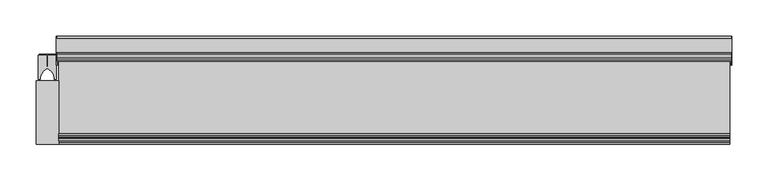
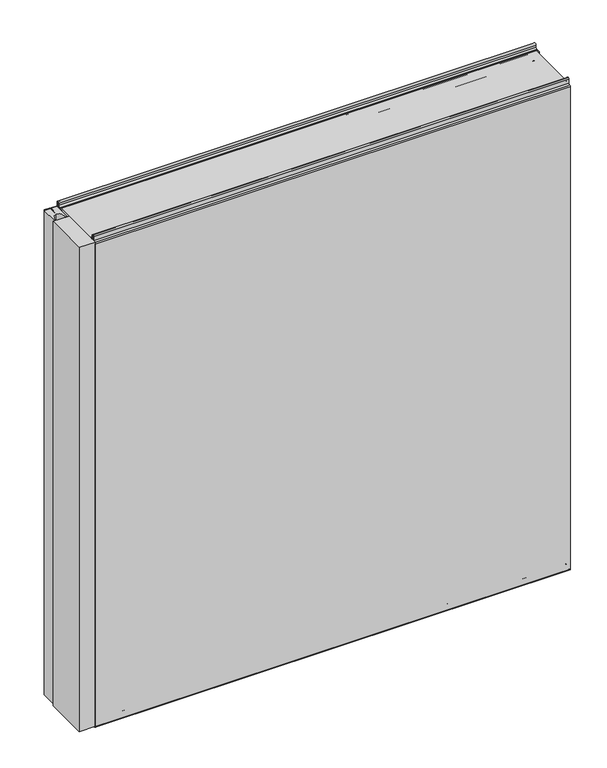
"""IFC4 building model written with IfcOpenShell, lengths in millimetres: plate geometry, Fronttop : Fronttop 150/1000."""

from ifc_helpers import new_model, si_unit, point, frame, frame_2d, origin, origin_with_axes, place, context, project, spatial, polyline, circle_curve, trimmed, segment, composite_curve, outline, extrude, source, transform, mapped, element, save
from ifc_brep_helpers import plane_surface, cylinder_surface, revolved_surface, advanced_brep


def plate_d942872d(model_context):
    return source(origin(), model_context, "Body", "SolidModel", [
        advanced_brep(
        [(-466.5, 124.0, 1008.0), (-466.5, 121.0, 1008.0), (-466.5, 121.0, 1004.0), (-466.5, 117.0, 1000.0), (-466.5, 115.0, 1000.0), (-466.5, 115.0, 1001.0), (-466.5, 117.0, 1001.0), (-466.5, 120.0, 1004.0), (-466.5, 120.0, 1008.0), (-466.5, 125.0, 1008.0), (-466.5, 125.0, 1000.0), (-466.5, 124.0, 1000.0), (466.5, 125.0, 1008.0), (466.5, 120.0, 1008.0), (466.5, 120.0, 1004.0), (466.5, 117.0, 1001.0), (466.5, 115.0, 1001.0), (466.5, 115.0, 1000.0), (466.5, 117.0, 1000.0), (466.5, 121.0, 1004.0), (466.5, 121.0, 1008.0), (466.5, 124.0, 1008.0), (466.5, 124.0, 1000.0), (466.5, 125.0, 1000.0), (-466.5, 117.0, 2.0), (466.5, 117.0, 2.0), (466.5, 115.0, 2.0), (-466.5, 115.0, 2.0), (-466.5, 119.0, 4.0), (466.5, 119.0, 4.0), (-466.5, 119.0, 8.0), (466.5, 119.0, 8.0), (-466.5, 126.0, 8.0), (466.5, 126.0, 8.0), (-466.5, 126.0, 0.0), (466.5, 126.0, 0.0), (-466.5, 129.0, -3.0), (466.5, 129.0, -3.0), (-466.5, 125.0, -3.0), (-467.5, 125.0, -3.0), (-467.5, 147.0, -3.0), (-466.5, 147.0, -3.0), (466.5, 147.0, -3.0), (467.5, 147.0, -3.0), (467.5, 125.0, -3.0), (466.5, 125.0, -3.0), (-466.5, 150.0, 0.0), (466.5, 150.0, 0.0), (-467.5, 150.0, 0.0), (-467.5, 150.0, 969.0), (-466.5, 150.0, 969.0), (466.5, 150.0, 969.0), (467.5, 150.0, 969.0), (467.5, 150.0, 0.0), (-466.5, 147.0, 972.0), (466.5, 147.0, 972.0), (-467.5, 147.0, 972.0), (-467.5, 128.0, 972.0), (-466.5, 128.0, 972.0), (466.5, 128.0, 972.0), (467.5, 128.0, 972.0), (467.5, 147.0, 972.0), (-466.5, 125.0, 975.0), (466.5, 125.0, 975.0), (-467.5, 125.0, 975.0), (-467.5, 125.0, 1000.0), (467.5, 125.0, 1000.0), (467.5, 125.0, 975.0), (-466.5, 124.0, 975.0), (466.5, 124.0, 975.0), (-466.5, 128.0, 971.0), (466.5, 128.0, 971.0), (-466.5, 147.0, 971.0), (466.5, 147.0, 971.0), (-466.5, 149.0, 969.0), (466.5, 149.0, 969.0), (-466.5, 149.0, 0.0), (466.5, 149.0, 0.0), (-466.5, 147.0, -2.0), (466.5, 147.0, -2.0), (-466.5, 129.0, -2.0), (466.5, 129.0, -2.0), (-466.5, 127.0, 0.0), (466.5, 127.0, 0.0), (-466.5, 127.0, 8.0), (466.5, 127.0, 8.0), (-466.5, 118.0, 8.0), (466.5, 118.0, 8.0), (-466.5, 118.0, 4.0), (466.5, 118.0, 4.0), (-466.5, 117.0, 3.0), (466.5, 117.0, 3.0), (-466.5, 115.0, 3.0), (466.5, 115.0, 3.0), (467.5, 110.0, 1000.0), (467.5, 110.0, 0.0), (467.5, 125.0, 0.0), (466.5, 125.0, 0.0), (466.5, 110.0, 0.0), (466.5, 110.0, 1000.0), (-467.5, 125.0, 0.0), (-467.5, 110.0, 0.0), (-467.5, 110.0, 1000.0), (-466.5, 110.0, 1000.0), (-466.5, 110.0, 0.0), (-466.5, 125.0, 0.0)],
        [
            (0, 1, circle_curve(frame((-466.5, 122.5, 1008.0), z_axis=(1.0, 0.0, 0.0), x_axis=(0.0, -1.0, 0.0)), 1.5)),
            (1, 2),
            (2, 3, circle_curve(frame((-466.5, 117.0, 1004.0), z_axis=(-1.0, 0.0, 0.0), x_axis=(0.0, -1.0, 0.0)), 4.0)),
            (3, 4),
            (4, 5),
            (5, 6),
            (6, 7, circle_curve(frame((-466.5, 117.0, 1004.0), z_axis=(1.0, 0.0, 0.0), x_axis=(0.0, -1.0, 0.0)), 3.0)),
            (7, 8),
            (8, 9, circle_curve(frame((-466.5, 122.5, 1008.0), z_axis=(-1.0, 0.0, 0.0), x_axis=(0.0, -1.0, 0.0)), 2.5)),
            (9, 10),
            (10, 11),
            (11, 0),
            (12, 13, circle_curve(frame((466.5, 122.5, 1008.0), z_axis=(1.0, 0.0, 0.0), x_axis=(0.0, -1.0, 0.0)), 2.5)),
            (13, 14),
            (14, 15, circle_curve(frame((466.5, 117.0, 1004.0), z_axis=(-1.0, 0.0, 0.0), x_axis=(0.0, -1.0, 0.0)), 3.0)),
            (15, 16),
            (16, 17),
            (17, 18),
            (18, 19, circle_curve(frame((466.5, 117.0, 1004.0), z_axis=(1.0, 0.0, 0.0), x_axis=(0.0, -1.0, 0.0)), 4.0)),
            (19, 20),
            (20, 21, circle_curve(frame((466.5, 122.5, 1008.0), z_axis=(-1.0, 0.0, 0.0), x_axis=(0.0, -1.0, 0.0)), 1.5)),
            (21, 22),
            (22, 23),
            (23, 12),
            (24, 25),
            (25, 26),
            (26, 27),
            (27, 24),
            (24, 28, circle_curve(frame((-466.5, 117.0, 4.0), z_axis=(1.0, 0.0, 0.0), x_axis=(0.0, -1.0, 0.0)), 2.0)),
            (28, 29),
            (29, 25, circle_curve(frame((466.5, 117.0, 4.0), z_axis=(-1.0, 0.0, 0.0), x_axis=(0.0, -1.0, 0.0)), 2.0)),
            (28, 30),
            (30, 31),
            (31, 29),
            (30, 32, circle_curve(frame((-466.5, 122.5, 8.0), z_axis=(-1.0, 0.0, 0.0), x_axis=(0.0, -1.0, 0.0)), 3.5)),
            (32, 33),
            (33, 31, circle_curve(frame((466.5, 122.5, 8.0), z_axis=(1.0, 0.0, 0.0), x_axis=(0.0, -1.0, 0.0)), 3.5)),
            (32, 34),
            (34, 35),
            (35, 33),
            (34, 36, circle_curve(frame((-466.5, 129.0, 0.0), z_axis=(1.0, 0.0, 0.0), x_axis=(0.0, -1.0, 0.0)), 3.0)),
            (36, 37),
            (37, 35, circle_curve(frame((466.5, 129.0, 0.0), z_axis=(-1.0, 0.0, 0.0), x_axis=(0.0, -1.0, 0.0)), 3.0)),
            (36, 38),
            (38, 39),
            (39, 40),
            (40, 41),
            (41, 42),
            (42, 43),
            (43, 44),
            (44, 45),
            (45, 37),
            (41, 46, circle_curve(frame((-466.5, 147.0, 0.0), z_axis=(1.0, 0.0, 0.0), x_axis=(0.0, -1.0, 0.0)), 3.0)),
            (46, 47),
            (47, 42, circle_curve(frame((466.5, 147.0, 0.0), z_axis=(-1.0, 0.0, 0.0), x_axis=(0.0, -1.0, 0.0)), 3.0)),
            (46, 48),
            (48, 49),
            (49, 50),
            (50, 51),
            (51, 52),
            (52, 53),
            (53, 47),
            (50, 54, circle_curve(frame((-466.5, 147.0, 969.0), z_axis=(1.0, 0.0, 0.0), x_axis=(0.0, -1.0, 0.0)), 3.0)),
            (54, 55),
            (55, 51, circle_curve(frame((466.5, 147.0, 969.0), z_axis=(-1.0, 0.0, 0.0), x_axis=(0.0, -1.0, 0.0)), 3.0)),
            (54, 56),
            (56, 57),
            (57, 58),
            (58, 59),
            (59, 60),
            (60, 61),
            (61, 55),
            (58, 62, circle_curve(frame((-466.5, 128.0, 975.0), z_axis=(-1.0, 0.0, 0.0), x_axis=(0.0, -1.0, 0.0)), 3.0)),
            (62, 63),
            (63, 59, circle_curve(frame((466.5, 128.0, 975.0), z_axis=(1.0, 0.0, 0.0), x_axis=(0.0, -1.0, 0.0)), 3.0)),
            (62, 64),
            (64, 65),
            (65, 10),
            (9, 12),
            (23, 66),
            (66, 67),
            (67, 63),
            (8, 13),
            (7, 14),
            (6, 15),
            (5, 16),
            (4, 17),
            (4, 3),
            (3, 18),
            (18, 17),
            (2, 19),
            (1, 20),
            (0, 21),
            (11, 68),
            (68, 69),
            (69, 22),
            (68, 70, circle_curve(frame((-466.5, 128.0, 975.0), z_axis=(1.0, 0.0, 0.0), x_axis=(0.0, -1.0, 0.0)), 4.0)),
            (70, 71),
            (71, 69, circle_curve(frame((466.5, 128.0, 975.0), z_axis=(-1.0, 0.0, 0.0), x_axis=(0.0, -1.0, 0.0)), 4.0)),
            (70, 72),
            (72, 73),
            (73, 71),
            (72, 74, circle_curve(frame((-466.5, 147.0, 969.0), z_axis=(-1.0, 0.0, 0.0), x_axis=(0.0, -1.0, 0.0)), 2.0)),
            (74, 75),
            (75, 73, circle_curve(frame((466.5, 147.0, 969.0), z_axis=(1.0, 0.0, 0.0), x_axis=(0.0, -1.0, 0.0)), 2.0)),
            (74, 76),
            (76, 77),
            (77, 75),
            (76, 78, circle_curve(frame((-466.5, 147.0, 0.0), z_axis=(-1.0, 0.0, 0.0), x_axis=(0.0, -1.0, 0.0)), 2.0)),
            (78, 79),
            (79, 77, circle_curve(frame((466.5, 147.0, 0.0), z_axis=(1.0, 0.0, 0.0), x_axis=(0.0, -1.0, 0.0)), 2.0)),
            (78, 80),
            (80, 81),
            (81, 79),
            (80, 82, circle_curve(frame((-466.5, 129.0, 0.0), z_axis=(-1.0, 0.0, 0.0), x_axis=(0.0, -1.0, 0.0)), 2.0)),
            (82, 83),
            (83, 81, circle_curve(frame((466.5, 129.0, 0.0), z_axis=(1.0, 0.0, 0.0), x_axis=(0.0, -1.0, 0.0)), 2.0)),
            (82, 84),
            (84, 85),
            (85, 83),
            (84, 86, circle_curve(frame((-466.5, 122.5, 8.0), z_axis=(1.0, 0.0, 0.0), x_axis=(0.0, -1.0, 0.0)), 4.5)),
            (86, 87),
            (87, 85, circle_curve(frame((466.5, 122.5, 8.0), z_axis=(-1.0, 0.0, 0.0), x_axis=(0.0, -1.0, 0.0)), 4.5)),
            (86, 88),
            (88, 89),
            (89, 87),
            (88, 90, circle_curve(frame((-466.5, 117.0, 4.0), z_axis=(-1.0, 0.0, 0.0), x_axis=(0.0, -1.0, 0.0)), 1.0)),
            (90, 91),
            (91, 89, circle_curve(frame((466.5, 117.0, 4.0), z_axis=(1.0, 0.0, 0.0), x_axis=(0.0, -1.0, 0.0)), 1.0)),
            (90, 92),
            (92, 93),
            (93, 91),
            (26, 93),
            (92, 27),
            (66, 94),
            (94, 95),
            (95, 96),
            (96, 44),
            (43, 53, circle_curve(frame((467.5, 147.0, 0.0), z_axis=(1.0, 0.0, 0.0), x_axis=(0.0, 1.0, 0.0)), 3.0)),
            (52, 61, circle_curve(frame((467.5, 147.0, 969.0), z_axis=(1.0, 0.0, 0.0), x_axis=(0.0, 1.0, 0.0)), 3.0)),
            (60, 67, circle_curve(frame((467.5, 128.0, 975.0), z_axis=(-1.0, 0.0, 0.0), x_axis=(0.0, 1.0, 0.0)), 3.0)),
            (45, 97),
            (97, 98),
            (98, 99),
            (99, 17),
            (18, 22),
            (99, 94),
            (98, 95),
            (97, 96),
            (64, 57, circle_curve(frame((-467.5, 128.0, 975.0), z_axis=(1.0, 0.0, 0.0), x_axis=(0.0, 1.0, 0.0)), 3.0)),
            (56, 49, circle_curve(frame((-467.5, 147.0, 969.0), z_axis=(-1.0, 0.0, 0.0), x_axis=(0.0, 1.0, 0.0)), 3.0)),
            (48, 40, circle_curve(frame((-467.5, 147.0, 0.0), z_axis=(-1.0, 0.0, 0.0), x_axis=(0.0, 1.0, 0.0)), 3.0)),
            (39, 100),
            (100, 101),
            (101, 102),
            (102, 65),
            (103, 104),
            (104, 105),
            (105, 38),
            (11, 3),
            (4, 103),
            (102, 103),
            (101, 104),
            (100, 105),
        ],
        [
            plane_surface(frame((-466.5, 0.0, 0.0), z_axis=(-1.0, 0.0, 0.0), x_axis=(0.0, 0.0, 1.0))),
            plane_surface(frame((466.5, 0.0, 0.0), z_axis=(1.0, 0.0, 0.0), x_axis=(0.0, 0.0, 1.0))),
            plane_surface(frame((-466.5, 117.0, 2.0), z_axis=(0.0, 0.0, -1.0), x_axis=(1.0, 0.0, 0.0))),
            cylinder_surface(frame((-466.5, 117.0, 4.0), z_axis=(-1.0, 0.0, 0.0), x_axis=(0.0, -1.0, 0.0)), 2.0),
            plane_surface(frame((-466.5, 119.0, 8.0), z_axis=(0.0, 1.0, 0.0), x_axis=(1.0, 0.0, 0.0))),
            revolved_surface(polyline([(466.5, 119.0, 8.0), (-466.5, 119.0, 8.0)]), (-466.5, 122.5, 8.0), (1.0, 0.0, 0.0)),
            plane_surface(frame((-466.5, 126.0, 0.0), z_axis=(0.0, -1.0, 0.0), x_axis=(1.0, 0.0, 0.0))),
            cylinder_surface(frame((-466.5, 129.0, 0.0), z_axis=(-1.0, 0.0, 0.0), x_axis=(0.0, -1.0, 0.0)), 3.0),
            plane_surface(frame((-466.5, 147.0, -3.0), z_axis=(0.0, 0.0, -1.0), x_axis=(1.0, 0.0, 0.0))),
            cylinder_surface(frame((-466.5, 147.0, 0.0), z_axis=(-1.0, 0.0, 0.0), x_axis=(0.0, -1.0, 0.0)), 3.0),
            plane_surface(frame((-466.5, 150.0, 969.0), z_axis=(0.0, 1.0, 0.0), x_axis=(1.0, 0.0, 0.0))),
            cylinder_surface(frame((-466.5, 147.0, 969.0), z_axis=(-1.0, 0.0, 0.0), x_axis=(0.0, -1.0, 0.0)), 3.0),
            plane_surface(frame((-466.5, 128.0, 972.0), z_axis=(0.0, 0.0, 1.0), x_axis=(1.0, 0.0, 0.0))),
            revolved_surface(polyline([(466.5, 125.0, 975.0), (-466.5, 125.0, 975.0)]), (-466.5, 128.0, 975.0), (1.0, 0.0, 0.0)),
            plane_surface(frame((-466.5, 125.0, 1008.0), z_axis=(0.0, 1.0, 0.0), x_axis=(1.0, 0.0, 0.0))),
            cylinder_surface(frame((-466.5, 122.5, 1008.0), z_axis=(-1.0, 0.0, 0.0), x_axis=(0.0, -1.0, 0.0)), 2.5),
            plane_surface(frame((-466.5, 120.0, 1004.0), z_axis=(0.0, -1.0, 0.0), x_axis=(1.0, 0.0, 0.0))),
            revolved_surface(polyline([(466.5, 114.0, 1004.0), (-466.5, 114.0, 1004.0)]), (-466.5, 117.0, 1004.0), (1.0, 0.0, 0.0)),
            plane_surface(frame((-466.5, 115.0, 1001.0), z_axis=(0.0, 0.0, 1.0), x_axis=(1.0, 0.0, 0.0))),
            plane_surface(frame((-466.5, 115.0, 1000.0), z_axis=(0.0, -1.0, 0.0), x_axis=(1.0, 0.0, 0.0))),
            plane_surface(frame((-466.5, 117.0, 1000.0), z_axis=(0.0, 0.0, -1.0), x_axis=(1.0, 0.0, 0.0))),
            cylinder_surface(frame((-466.5, 117.0, 1004.0), z_axis=(-1.0, 0.0, 0.0), x_axis=(0.0, -1.0, 0.0)), 4.0),
            plane_surface(frame((-466.5, 121.0, 1008.0), z_axis=(0.0, 1.0, 0.0), x_axis=(1.0, 0.0, 0.0))),
            revolved_surface(polyline([(466.5, 121.0, 1008.0), (-466.5, 121.0, 1008.0)]), (-466.5, 122.5, 1008.0), (1.0, 0.0, 0.0)),
            plane_surface(frame((-466.5, 124.0, 975.0), z_axis=(0.0, -1.0, 0.0), x_axis=(1.0, 0.0, 0.0))),
            cylinder_surface(frame((-466.5, 128.0, 975.0), z_axis=(-1.0, 0.0, 0.0), x_axis=(0.0, -1.0, 0.0)), 4.0),
            plane_surface(frame((-466.5, 147.0, 971.0), z_axis=(0.0, 0.0, -1.0), x_axis=(1.0, 0.0, 0.0))),
            revolved_surface(polyline([(466.5, 145.0, 969.0), (-466.5, 145.0, 969.0)]), (-466.5, 147.0, 969.0), (1.0, 0.0, 0.0)),
            plane_surface(frame((-466.5, 149.0, 0.0), z_axis=(0.0, -1.0, 0.0), x_axis=(1.0, 0.0, 0.0))),
            revolved_surface(polyline([(466.5, 145.0, 0.0), (-466.5, 145.0, 0.0)]), (-466.5, 147.0, 0.0), (1.0, 0.0, 0.0)),
            plane_surface(frame((-466.5, 129.0, -2.0), z_axis=(0.0, 0.0, 1.0), x_axis=(1.0, 0.0, 0.0))),
            revolved_surface(polyline([(466.5, 127.0, 0.0), (-466.5, 127.0, 0.0)]), (-466.5, 129.0, 0.0), (1.0, 0.0, 0.0)),
            plane_surface(frame((-466.5, 127.0, 8.0), z_axis=(0.0, 1.0, 0.0), x_axis=(1.0, 0.0, 0.0))),
            cylinder_surface(frame((-466.5, 122.5, 8.0), z_axis=(-1.0, 0.0, 0.0), x_axis=(0.0, -1.0, 0.0)), 4.5),
            plane_surface(frame((-466.5, 118.0, 4.0), z_axis=(0.0, -1.0, 0.0), x_axis=(1.0, 0.0, 0.0))),
            revolved_surface(polyline([(466.5, 116.0, 4.0), (-466.5, 116.0, 4.0)]), (-466.5, 117.0, 4.0), (1.0, 0.0, 0.0)),
            plane_surface(frame((-466.5, 115.0, 3.0), z_axis=(0.0, 0.0, 1.0), x_axis=(1.0, 0.0, 0.0))),
            plane_surface(frame((-466.5, 115.0, 2.0), z_axis=(0.0, -1.0, 0.0), x_axis=(1.0, 0.0, 0.0))),
            plane_surface(frame((467.5, 125.0, 1000.0), z_axis=(1.0, 0.0, 0.0), x_axis=(0.0, -1.0, 0.0))),
            plane_surface(frame((466.5, 125.0, 1000.0), z_axis=(-1.0, 0.0, 0.0), x_axis=(0.0, 1.0, 0.0))),
            plane_surface(frame((467.5, 125.0, 1000.0), z_axis=(0.0, 0.0, 1.0), x_axis=(-1.0, 0.0, 0.0))),
            plane_surface(frame((467.5, 110.0, 1000.0), z_axis=(0.0, -1.0, 0.0), x_axis=(-1.0, 0.0, 0.0))),
            plane_surface(frame((467.5, 110.0, 0.0), z_axis=(0.0, 0.0, -1.0), x_axis=(-1.0, 0.0, 0.0))),
            cylinder_surface(frame((466.5, 147.0, 0.0), z_axis=(1.0, 0.0, 0.0), x_axis=(0.0, 1.0, 0.0)), 3.0),
            cylinder_surface(frame((466.5, 147.0, 969.0), z_axis=(1.0, 0.0, 0.0), x_axis=(0.0, 1.0, 0.0)), 3.0),
            revolved_surface(polyline([(466.5, 131.0, 975.0), (467.5, 131.0, 975.0)]), (466.5, 128.0, 975.0), (-1.0, 0.0, 0.0)),
            plane_surface(frame((-467.5, 125.0, 1000.0), z_axis=(-1.0, 0.0, 0.0), x_axis=(0.0, 1.0, 0.0))),
            plane_surface(frame((-466.5, 125.0, 1000.0), z_axis=(1.0, 0.0, 0.0), x_axis=(0.0, -1.0, 0.0))),
            plane_surface(frame((-466.5, 125.0, 1000.0), z_axis=(0.0, 0.0, 1.0), x_axis=(-1.0, 0.0, 0.0))),
            plane_surface(frame((-466.5, 110.0, 1000.0), z_axis=(0.0, -1.0, 0.0), x_axis=(-1.0, 0.0, 0.0))),
            plane_surface(frame((-466.5, 110.0, 0.0), z_axis=(0.0, 0.0, -1.0), x_axis=(-1.0, 0.0, 0.0))),
            cylinder_surface(frame((-467.5, 147.0, 0.0), z_axis=(1.0, 0.0, 0.0), x_axis=(0.0, 1.0, 0.0)), 3.0),
            cylinder_surface(frame((-467.5, 147.0, 969.0), z_axis=(1.0, 0.0, 0.0), x_axis=(0.0, 1.0, 0.0)), 3.0),
            revolved_surface(polyline([(-467.5, 131.0, 975.0), (-466.5, 131.0, 975.0)]), (-467.5, 128.0, 975.0), (-1.0, 0.0, 0.0)),
            plane_surface(frame((467.5, 125.0, 0.0), z_axis=(0.0, -1.0, 0.0), x_axis=(-1.0, 0.0, 0.0))),
            plane_surface(frame((-466.5, 125.0, 0.0), z_axis=(0.0, -1.0, 0.0), x_axis=(-1.0, 0.0, 0.0))),
        ],
        [
            (0, [[1, 2, 3, 4, 5, 6, 7, 8, 9, 10, 11, 12]]),
            (1, [[13, 14, 15, 16, 17, 18, 19, 20, 21, 22, 23, 24]]),
            (2, [[25, 26, 27, 28]]),
            (3, [[-25, 29, 30, 31]]),
            (4, [[-30, 32, 33, 34]]),
            (5, [[-33, 35, 36, 37]]),
            (6, [[-36, 38, 39, 40]]),
            (7, [[-39, 41, 42, 43]]),
            (8, [[-42, 44, 45, 46, 47, 48, 49, 50, 51, 52]]),
            (9, [[-48, 53, 54, 55]]),
            (10, [[-54, 56, 57, 58, 59, 60, 61, 62]]),
            (11, [[-59, 63, 64, 65]]),
            (12, [[-64, 66, 67, 68, 69, 70, 71, 72]]),
            (13, [[-69, 73, 74, 75]]),
            (14, [[-74, 76, 77, 78, -10, 79, -24, 80, 81, 82]]),
            (15, [[-9, 83, -13, -79]]),
            (16, [[-8, 84, -14, -83]]),
            (17, [[-7, 85, -15, -84]]),
            (18, [[-6, 86, -16, -85]]),
            (19, [[-5, 87, -17, -86]]),
            (20, [[-87, 88, 89, 90]]),
            (21, [[-3, 91, -19, -89]]),
            (22, [[-2, 92, -20, -91]]),
            (23, [[-1, 93, -21, -92]]),
            (24, [[-93, -12, 94, 95, 96, -22]]),
            (25, [[-95, 97, 98, 99]]),
            (26, [[-98, 100, 101, 102]]),
            (27, [[-101, 103, 104, 105]]),
            (28, [[-104, 106, 107, 108]]),
            (29, [[-107, 109, 110, 111]]),
            (30, [[-110, 112, 113, 114]]),
            (31, [[-113, 115, 116, 117]]),
            (32, [[-116, 118, 119, 120]]),
            (33, [[-119, 121, 122, 123]]),
            (34, [[-122, 124, 125, 126]]),
            (35, [[-125, 127, 128, 129]]),
            (36, [[-128, 130, 131, 132]]),
            (37, [[-27, 133, -131, 134]]),
            (38, [[135, 136, 137, 138, -50, 139, -61, 140, -71, 141, -81]]),
            (39, [[142, 143, 144, 145, -90, 146, -96, -99, -102, -105, -108, -111, -114, -117, -120, -123, -126, -129, -132, -133, -26, -31, -34, -37, -40, -43, -52]]),
            (40, [[-135, -80, -23, -146, -18, -145, 147]]),
            (41, [[-136, -147, -144, 148]]),
            (42, [[-137, -148, -143, 149]]),
            (43, [[-139, -49, -55, -62]]),
            (44, [[-140, -60, -65, -72]]),
            (45, [[-141, -70, -75, -82]]),
            (46, [[-77, 150, -67, 151, -57, 152, -46, 153, 154, 155, 156]]),
            (47, [[157, 158, 159, -44, -41, -38, -35, -32, -29, -28, -134, -130, -127, -124, -121, -118, -115, -112, -109, -106, -103, -100, -97, -94, 160, -88, 161]]),
            (48, [[-156, 162, -161, -4, -160, -11, -78]]),
            (49, [[-155, 163, -157, -162]]),
            (50, [[-154, 164, -158, -163]]),
            (51, [[-152, -56, -53, -47]]),
            (52, [[-151, -66, -63, -58]]),
            (53, [[-150, -76, -73, -68]]),
            (54, [[-138, -149, -142, -51]]),
            (55, [[-153, -45, -159, -164]]),
        ],
    ),
        extrude(outline(composite_curve([segment(polyline([(-492.5001545, 123.5), (-480.75, 123.5), (-480.75, 107.5), (-479.25, 107.5), (-479.25, 123.5), (-467.4998455, 123.5), (-467.4998455, 90.0), (-470.25, 90.0), (-470.25, 92.5)]), True, "CONTINUOUS"), segment(trimmed(circle_curve(frame_2d((-488.0338021, 89.3183984)), 18.0661619), [point((-470.25, 92.5))], [point((-480.0, 105.5))], True, "CARTESIAN"), True, "CONTINUOUS"), segment(trimmed(circle_curve(frame_2d((-471.9661979, 89.3183984)), 18.0661619), [point((-480.0, 105.5))], [point((-489.75, 92.5))], True, "CARTESIAN"), True, "CONTINUOUS"), segment(polyline([(-489.75, 92.5), (-489.75, 90.0), (-492.5001545, 90.0), (-492.5001545, 123.5)]), True, "CONTINUOUS")], self_intersect=False)), origin_with_axes(), (0.0, 0.0, 1.0), 1000.0),
        extrude(outline(polyline([(-464.5, 0.0), (-495.5, 0.0), (-495.5, 88.0), (-464.5, 88.0), (-464.5, 0.0)])), origin_with_axes(), (0.0, 0.0, 1.0), 1000.0),
        extrude(outline(polyline([(-491.5051154, 125.0), (-468.4948846, 125.0), (-468.4948846, 123.5), (-479.3497504, 123.5), (-479.3497504, 109.0759655), (-480.65, 109.0759655), (-480.65, 123.5), (-491.5051154, 123.5), (-491.5051154, 125.0)])), origin_with_axes(), (0.0, 0.0, 1.0), 1000.0),
        advanced_brep(
        [(-464.5, 13.0, 1001.0), (-464.5, 15.0, 1001.0), (-464.5, 15.0, 1000.0), (-464.5, 13.0, 1000.0), (-464.5, 9.0, 1004.0), (-464.5, 9.0, 1008.0), (-464.5, 6.0, 1008.0), (-464.5, 6.0, 999.5), (-464.5, 2.1134897, 996.0214069), (-464.5, 1.0, 995.0), (-464.5, 1.0, -0.5), (-464.5, 3.0, -0.5), (-464.5, 3.0, 8.0), (-464.5, 12.0, 8.0), (-464.5, 12.0, 4.0), (-464.5, 13.0, 3.0), (-464.5, 15.0, 3.0), (-464.5, 15.0, 2.0), (-464.5, 13.0, 2.0), (-464.5, 11.0, 4.0), (-464.5, 11.0, 8.0), (-464.5, 4.0, 8.0), (-464.5, 4.0, -0.5), (-464.5, 0.0, -0.5), (-464.5, 0.0, 995.0), (-464.5, 2.220863, 996.9877675), (-464.5, 5.0, 999.5), (-464.5, 5.0, 1008.0), (-464.5, 10.0, 1008.0), (-464.5, 10.0, 1004.0), (464.5, 13.0, 1001.0), (464.5, 10.0, 1004.0), (464.5, 10.0, 1008.0), (464.5, 5.0, 1008.0), (464.5, 5.0, 999.5), (464.5, 2.2239212, 997.0152907), (464.5, 0.0, 995.0), (464.5, 0.0, -0.5), (464.5, 4.0, -0.5), (464.5, 4.0, 8.0), (464.5, 11.0, 8.0), (464.5, 11.0, 4.0), (464.5, 13.0, 2.0), (464.5, 15.0, 2.0), (464.5, 15.0, 3.0), (464.5, 13.0, 3.0), (464.5, 12.0, 4.0), (464.5, 12.0, 8.0), (464.5, 3.0, 8.0), (464.5, 3.0, -0.5), (464.5, 1.0, -0.5), (464.5, 1.0, 995.0), (464.5, 2.1104315, 995.9938837), (464.5, 6.0, 999.5), (464.5, 6.0, 1008.0), (464.5, 9.0, 1008.0), (464.5, 9.0, 1004.0), (464.5, 13.0, 1000.0), (464.5, 15.0, 1000.0), (464.5, 15.0, 1001.0)],
        [
            (0, 1),
            (1, 2),
            (2, 3),
            (3, 4, circle_curve(frame((-464.5, 13.0, 1004.0), z_axis=(-1.0, 0.0, 0.0), x_axis=(0.0, -1.0, 0.0)), 4.0)),
            (4, 5),
            (5, 6, circle_curve(frame((-464.5, 7.5, 1008.0), z_axis=(1.0, 0.0, 0.0), x_axis=(0.0, -1.0, 0.0)), 1.5)),
            (6, 7),
            (7, 8, circle_curve(frame((-464.5, 2.5, 999.5), z_axis=(-1.0, 0.0, 0.0), x_axis=(0.0, -1.0, 0.0)), 3.5)),
            (8, 9, circle_curve(frame((-464.5, 2.0, 995.0), z_axis=(1.0, 0.0, 0.0), x_axis=(0.0, -1.0, 0.0)), 1.0)),
            (9, 10),
            (10, 11, circle_curve(frame((-464.5, 2.0, -0.5), z_axis=(1.0, 0.0, 0.0), x_axis=(0.0, -1.0, 0.0)), 1.0)),
            (11, 12),
            (12, 13, circle_curve(frame((-464.5, 7.5, 8.0), z_axis=(-1.0, 0.0, 0.0), x_axis=(0.0, -1.0, 0.0)), 4.5)),
            (13, 14),
            (14, 15, circle_curve(frame((-464.5, 13.0, 4.0), z_axis=(1.0, 0.0, 0.0), x_axis=(0.0, -1.0, 0.0)), 1.0)),
            (15, 16),
            (16, 17),
            (17, 18),
            (18, 19, circle_curve(frame((-464.5, 13.0, 4.0), z_axis=(-1.0, 0.0, 0.0), x_axis=(0.0, -1.0, 0.0)), 2.0)),
            (19, 20),
            (20, 21, circle_curve(frame((-464.5, 7.5, 8.0), z_axis=(1.0, 0.0, 0.0), x_axis=(0.0, -1.0, 0.0)), 3.5)),
            (21, 22),
            (22, 23, circle_curve(frame((-464.5, 2.0, -0.5), z_axis=(-1.0, 0.0, 0.0), x_axis=(0.0, -1.0, 0.0)), 2.0)),
            (23, 24),
            (24, 25, circle_curve(frame((-464.5, 2.0, 995.0), z_axis=(-1.0, 0.0, 0.0), x_axis=(0.0, -1.0, 0.0)), 2.0)),
            (25, 26, circle_curve(frame((-464.5, 2.5, 999.5), z_axis=(1.0, 0.0, 0.0), x_axis=(0.0, -1.0, 0.0)), 2.5)),
            (26, 27),
            (27, 28, circle_curve(frame((-464.5, 7.5, 1008.0), z_axis=(-1.0, 0.0, 0.0), x_axis=(0.0, -1.0, 0.0)), 2.5)),
            (28, 29),
            (29, 0, circle_curve(frame((-464.5, 13.0, 1004.0), z_axis=(1.0, 0.0, 0.0), x_axis=(0.0, -1.0, 0.0)), 3.0)),
            (30, 31, circle_curve(frame((464.5, 13.0, 1004.0), z_axis=(-1.0, 0.0, 0.0), x_axis=(0.0, -1.0, 0.0)), 3.0)),
            (31, 32),
            (32, 33, circle_curve(frame((464.5, 7.5, 1008.0), z_axis=(1.0, 0.0, 0.0), x_axis=(0.0, -1.0, 0.0)), 2.5)),
            (33, 34),
            (34, 35, circle_curve(frame((464.5, 2.5, 999.5), z_axis=(-1.0, 0.0, 0.0), x_axis=(0.0, -1.0, 0.0)), 2.5)),
            (35, 36, circle_curve(frame((464.5, 2.0, 995.0), z_axis=(1.0, 0.0, 0.0), x_axis=(0.0, -1.0, 0.0)), 2.0)),
            (36, 37),
            (37, 38, circle_curve(frame((464.5, 2.0, -0.5), z_axis=(1.0, 0.0, 0.0), x_axis=(0.0, -1.0, 0.0)), 2.0)),
            (38, 39),
            (39, 40, circle_curve(frame((464.5, 7.5, 8.0), z_axis=(-1.0, 0.0, 0.0), x_axis=(0.0, -1.0, 0.0)), 3.5)),
            (40, 41),
            (41, 42, circle_curve(frame((464.5, 13.0, 4.0), z_axis=(1.0, 0.0, 0.0), x_axis=(0.0, -1.0, 0.0)), 2.0)),
            (42, 43),
            (43, 44),
            (44, 45),
            (45, 46, circle_curve(frame((464.5, 13.0, 4.0), z_axis=(-1.0, 0.0, 0.0), x_axis=(0.0, -1.0, 0.0)), 1.0)),
            (46, 47),
            (47, 48, circle_curve(frame((464.5, 7.5, 8.0), z_axis=(1.0, 0.0, 0.0), x_axis=(0.0, -1.0, 0.0)), 4.5)),
            (48, 49),
            (49, 50, circle_curve(frame((464.5, 2.0, -0.5), z_axis=(-1.0, 0.0, 0.0), x_axis=(0.0, -1.0, 0.0)), 1.0)),
            (50, 51),
            (51, 52, circle_curve(frame((464.5, 2.0, 995.0), z_axis=(-1.0, 0.0, 0.0), x_axis=(0.0, -1.0, 0.0)), 1.0)),
            (52, 53, circle_curve(frame((464.5, 2.5, 999.5), z_axis=(1.0, 0.0, 0.0), x_axis=(0.0, -1.0, 0.0)), 3.5)),
            (53, 54),
            (54, 55, circle_curve(frame((464.5, 7.5, 1008.0), z_axis=(-1.0, 0.0, 0.0), x_axis=(0.0, -1.0, 0.0)), 1.5)),
            (55, 56),
            (56, 57, circle_curve(frame((464.5, 13.0, 1004.0), z_axis=(1.0, 0.0, 0.0), x_axis=(0.0, -1.0, 0.0)), 4.0)),
            (57, 58),
            (58, 59),
            (59, 30),
            (0, 30),
            (59, 1),
            (58, 2),
            (57, 3),
            (56, 4),
            (55, 5),
            (54, 6),
            (53, 7),
            (52, 8),
            (51, 9),
            (50, 10),
            (49, 11),
            (48, 12),
            (47, 13),
            (46, 14),
            (45, 15),
            (44, 16),
            (43, 17),
            (42, 18),
            (41, 19),
            (40, 20),
            (39, 21),
            (38, 22),
            (37, 23),
            (36, 24),
            (35, 25),
            (34, 26),
            (33, 27),
            (32, 28),
            (31, 29),
        ],
        [
            plane_surface(frame((-464.5, 0.0, 0.0), z_axis=(-1.0, 0.0, 0.0), x_axis=(0.0, 0.0, 1.0))),
            plane_surface(frame((464.5, 0.0, 0.0), z_axis=(1.0, 0.0, 0.0), x_axis=(0.0, 0.0, 1.0))),
            plane_surface(frame((-464.5, 13.0, 1001.0), z_axis=(0.0, 0.0, 1.0), x_axis=(1.0, 0.0, 0.0))),
            plane_surface(frame((-464.5, 15.0, 1001.0), z_axis=(0.0, 1.0, 0.0), x_axis=(1.0, 0.0, 0.0))),
            plane_surface(frame((-464.5, 15.0, 1000.0), z_axis=(0.0, 0.0, -1.0), x_axis=(1.0, 0.0, 0.0))),
            cylinder_surface(frame((-464.5, 13.0, 1004.0), z_axis=(-1.0, 0.0, 0.0), x_axis=(0.0, -1.0, 0.0)), 4.0),
            plane_surface(frame((-464.5, 9.0, 1004.0), z_axis=(0.0, -1.0, 0.0), x_axis=(1.0, 0.0, 0.0))),
            revolved_surface(polyline([(464.5, 6.0, 1008.0), (-464.5, 6.0, 1008.0)]), (-464.5, 7.5, 1008.0), (1.0, 0.0, 0.0)),
            plane_surface(frame((-464.5, 6.0, 1008.0), z_axis=(0.0, 1.0, 0.0), x_axis=(1.0, 0.0, 0.0))),
            cylinder_surface(frame((-464.5, 2.5, 999.5), z_axis=(-1.0, 0.0, 0.0), x_axis=(0.0, -1.0, 0.0)), 3.5),
            revolved_surface(polyline([(464.5, 1.0, 995.0), (-464.5, 1.0, 995.0)]), (-464.5, 2.0, 995.0), (1.0, 0.0, 0.0)),
            plane_surface(frame((-464.5, 1.0, 995.0), z_axis=(0.0, 1.0, 0.0), x_axis=(1.0, 0.0, 0.0))),
            revolved_surface(polyline([(464.5, 1.0, -0.5), (-464.5, 1.0, -0.5)]), (-464.5, 2.0, -0.5), (1.0, 0.0, 0.0)),
            plane_surface(frame((-464.5, 3.0, -0.5), z_axis=(0.0, -1.0, 0.0), x_axis=(1.0, 0.0, 0.0))),
            cylinder_surface(frame((-464.5, 7.5, 8.0), z_axis=(-1.0, 0.0, 0.0), x_axis=(0.0, -1.0, 0.0)), 4.5),
            plane_surface(frame((-464.5, 12.0, 8.0), z_axis=(0.0, 1.0, 0.0), x_axis=(1.0, 0.0, 0.0))),
            revolved_surface(polyline([(464.5, 12.0, 4.0), (-464.5, 12.0, 4.0)]), (-464.5, 13.0, 4.0), (1.0, 0.0, 0.0)),
            plane_surface(frame((-464.5, 13.0, 3.0), z_axis=(0.0, 0.0, 1.0), x_axis=(1.0, 0.0, 0.0))),
            plane_surface(frame((-464.5, 15.0, 3.0), z_axis=(0.0, 1.0, 0.0), x_axis=(1.0, 0.0, 0.0))),
            plane_surface(frame((-464.5, 15.0, 2.0), z_axis=(0.0, 0.0, -1.0), x_axis=(1.0, 0.0, 0.0))),
            cylinder_surface(frame((-464.5, 13.0, 4.0), z_axis=(-1.0, 0.0, 0.0), x_axis=(0.0, -1.0, 0.0)), 2.0),
            plane_surface(frame((-464.5, 11.0, 4.0), z_axis=(0.0, -1.0, 0.0), x_axis=(1.0, 0.0, 0.0))),
            revolved_surface(polyline([(464.5, 4.0, 8.0), (-464.5, 4.0, 8.0)]), (-464.5, 7.5, 8.0), (1.0, 0.0, 0.0)),
            plane_surface(frame((-464.5, 4.0, 8.0), z_axis=(0.0, 1.0, 0.0), x_axis=(1.0, 0.0, 0.0))),
            cylinder_surface(frame((-464.5, 2.0, -0.5), z_axis=(-1.0, 0.0, 0.0), x_axis=(0.0, -1.0, 0.0)), 2.0),
            plane_surface(frame((-464.5, 0.0, -0.5), z_axis=(0.0, -1.0, 0.0), x_axis=(1.0, 0.0, 0.0))),
            cylinder_surface(frame((-464.5, 2.0, 995.0), z_axis=(-1.0, 0.0, 0.0), x_axis=(0.0, -1.0, 0.0)), 2.0),
            revolved_surface(polyline([(464.5, 0.0, 999.5), (-464.5, 0.0, 999.5)]), (-464.5, 2.5, 999.5), (1.0, 0.0, 0.0)),
            plane_surface(frame((-464.5, 5.0, 999.5), z_axis=(0.0, -1.0, 0.0), x_axis=(1.0, 0.0, 0.0))),
            cylinder_surface(frame((-464.5, 7.5, 1008.0), z_axis=(-1.0, 0.0, 0.0), x_axis=(0.0, -1.0, 0.0)), 2.5),
            plane_surface(frame((-464.5, 10.0, 1008.0), z_axis=(0.0, 1.0, 0.0), x_axis=(1.0, 0.0, 0.0))),
            revolved_surface(polyline([(464.5, 10.0, 1004.0), (-464.5, 10.0, 1004.0)]), (-464.5, 13.0, 1004.0), (1.0, 0.0, 0.0)),
        ],
        [
            (0, [[1, 2, 3, 4, 5, 6, 7, 8, 9, 10, 11, 12, 13, 14, 15, 16, 17, 18, 19, 20, 21, 22, 23, 24, 25, 26, 27, 28, 29, 30]]),
            (1, [[31, 32, 33, 34, 35, 36, 37, 38, 39, 40, 41, 42, 43, 44, 45, 46, 47, 48, 49, 50, 51, 52, 53, 54, 55, 56, 57, 58, 59, 60]]),
            (2, [[-1, 61, -60, 62]]),
            (3, [[-2, -62, -59, 63]]),
            (4, [[-3, -63, -58, 64]]),
            (5, [[-4, -64, -57, 65]]),
            (6, [[-5, -65, -56, 66]]),
            (7, [[-6, -66, -55, 67]]),
            (8, [[-7, -67, -54, 68]]),
            (9, [[-8, -68, -53, 69]]),
            (10, [[-9, -69, -52, 70]]),
            (11, [[-10, -70, -51, 71]]),
            (12, [[-11, -71, -50, 72]]),
            (13, [[-12, -72, -49, 73]]),
            (14, [[-13, -73, -48, 74]]),
            (15, [[-14, -74, -47, 75]]),
            (16, [[-15, -75, -46, 76]]),
            (17, [[-16, -76, -45, 77]]),
            (18, [[-17, -77, -44, 78]]),
            (19, [[-18, -78, -43, 79]]),
            (20, [[-19, -79, -42, 80]]),
            (21, [[-20, -80, -41, 81]]),
            (22, [[-21, -81, -40, 82]]),
            (23, [[-22, -82, -39, 83]]),
            (24, [[-23, -83, -38, 84]]),
            (25, [[-24, -84, -37, 85]]),
            (26, [[-25, -85, -36, 86]]),
            (27, [[-26, -86, -35, 87]]),
            (28, [[-27, -87, -34, 88]]),
            (29, [[-28, -88, -33, 89]]),
            (30, [[-29, -89, -32, 90]]),
            (31, [[-30, -90, -31, -61]]),
        ],
    ),
        extrude(outline(composite_curve([segment(polyline([(15.0, 3.0), (13.0, 3.0)]), True, "CONTINUOUS"), segment(trimmed(circle_curve(frame_2d((13.0, 4.0)), 1.0), [point((13.0, 3.0))], [point((12.0, 4.0))], False, "CARTESIAN"), True, "CONTINUOUS"), segment(polyline([(12.0, 4.0), (12.0, 8.0)]), True, "CONTINUOUS"), segment(trimmed(circle_curve(frame_2d((7.5, 8.0)), 4.5), [point((12.0, 8.0))], [point((3.0, 8.0))], True, "CARTESIAN"), True, "CONTINUOUS"), segment(polyline([(3.0, 8.0), (3.0, -0.5)]), True, "CONTINUOUS"), segment(trimmed(circle_curve(frame_2d((2.0, -0.5)), 1.0), [point((3.0, -0.5))], [point((1.0, -0.5))], False, "CARTESIAN"), True, "CONTINUOUS"), segment(polyline([(1.0, -0.5), (1.0, 995.0278643)]), True, "CONTINUOUS"), segment(trimmed(circle_curve(frame_2d((2.0, 995.0278643)), 1.0), [point((1.0, 995.0278643))], [point((2.1111111, 996.0216723))], False, "CARTESIAN"), True, "CONTINUOUS"), segment(trimmed(circle_curve(frame_2d((2.5, 999.5)), 3.5), [point((2.1111111, 996.0216723))], [point((6.0, 999.5))], True, "CARTESIAN"), True, "CONTINUOUS"), segment(polyline([(6.0, 999.5), (6.0, 1008.0)]), True, "CONTINUOUS"), segment(trimmed(circle_curve(frame_2d((7.5, 1008.0)), 1.5), [point((6.0, 1008.0))], [point((9.0, 1008.0))], False, "CARTESIAN"), True, "CONTINUOUS"), segment(polyline([(9.0, 1008.0), (9.0, 1004.0)]), True, "CONTINUOUS"), segment(trimmed(circle_curve(frame_2d((13.0, 1004.0)), 4.0), [point((9.0, 1004.0))], [point((13.0, 1000.0))], True, "CARTESIAN"), True, "CONTINUOUS"), segment(polyline([(13.0, 1000.0), (117.0, 1000.0)]), True, "CONTINUOUS"), segment(trimmed(circle_curve(frame_2d((117.0, 1004.0)), 4.0), [point((117.0, 1000.0))], [point((121.0, 1004.0))], True, "CARTESIAN"), True, "CONTINUOUS"), segment(polyline([(121.0, 1004.0), (121.0, 1008.0)]), True, "CONTINUOUS"), segment(trimmed(circle_curve(frame_2d((122.5, 1008.0)), 1.5), [point((121.0, 1008.0))], [point((124.0, 1008.0))], False, "CARTESIAN"), True, "CONTINUOUS"), segment(polyline([(124.0, 1008.0), (124.0, 975.0)]), True, "CONTINUOUS"), segment(trimmed(circle_curve(frame_2d((128.0, 975.0)), 4.0), [point((124.0, 975.0))], [point((128.0, 971.0))], True, "CARTESIAN"), True, "CONTINUOUS"), segment(polyline([(128.0, 971.0), (147.0, 971.0)]), True, "CONTINUOUS"), segment(trimmed(circle_curve(frame_2d((147.0, 969.0)), 2.0), [point((147.0, 971.0))], [point((149.0, 969.0))], False, "CARTESIAN"), True, "CONTINUOUS"), segment(polyline([(149.0, 969.0), (149.0, 0.0)]), True, "CONTINUOUS"), segment(trimmed(circle_curve(frame_2d((147.0, 0.0)), 2.0), [point((149.0, 0.0))], [point((147.0, -2.0))], False, "CARTESIAN"), True, "CONTINUOUS"), segment(polyline([(147.0, -2.0), (129.0, -2.0)]), True, "CONTINUOUS"), segment(trimmed(circle_curve(frame_2d((129.0, 0.0)), 2.0), [point((129.0, -2.0))], [point((127.0, 0.0))], False, "CARTESIAN"), True, "CONTINUOUS"), segment(polyline([(127.0, 0.0), (127.0, 8.0)]), True, "CONTINUOUS"), segment(trimmed(circle_curve(frame_2d((122.5, 8.0)), 4.5), [point((127.0, 8.0))], [point((118.0, 8.0))], True, "CARTESIAN"), True, "CONTINUOUS"), segment(polyline([(118.0, 8.0), (118.0, 4.0)]), True, "CONTINUOUS"), segment(trimmed(circle_curve(frame_2d((117.0, 4.0)), 1.0), [point((118.0, 4.0))], [point((117.0, 3.0))], False, "CARTESIAN"), True, "CONTINUOUS"), segment(polyline([(117.0, 3.0), (115.0, 3.0), (115.0, 0.0), (15.0, 0.0), (15.0, 3.0)]), True, "CONTINUOUS")], self_intersect=False)), frame((-464.5, 0.0, 0.0), z_axis=(1.0, 0.0, 0.0), x_axis=(0.0, 1.0, 0.0)), (0.0, 0.0, 1.0), 929.0),
    ])


if __name__ == "__main__":
    model = new_model("IFC4")
    model_context = context("Model", 3, world=origin())
    ifc_project = project(units=[si_unit("LENGTHUNIT", "METRE", prefix="MILLI")], contexts=[model_context])
    site = spatial("IfcSite", under=ifc_project)
    building = spatial("IfcBuilding", under=site)
    placement = place(None, origin())
    plate_shape = plate_d942872d(model_context)
    element("IfcPlate", 1, ObjectType="Fronttop : Fronttop 150/1000", at=placement, inside=building, context=model_context, shape_type="MappedRepresentation", body=[
        mapped(plate_shape, transform((0.0, 0.0, 0.0), x_axis=(1.0, 0.0, 0.0), y_axis=(0.0, 1.0, 0.0), z_axis=(0.0, 0.0, 1.0))),
    ])
    save(model, "model.ifc")
